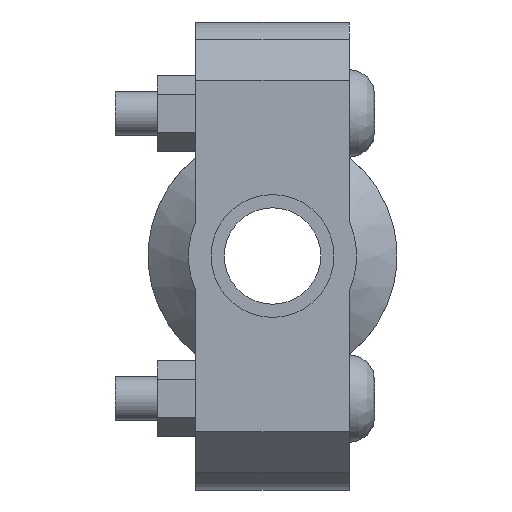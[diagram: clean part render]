
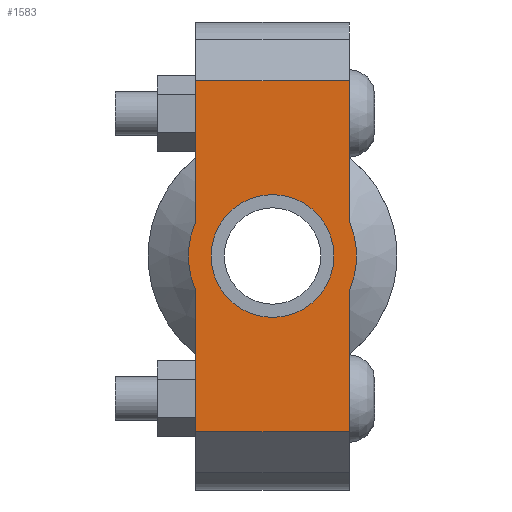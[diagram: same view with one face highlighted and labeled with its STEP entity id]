
A CAD part, left-side view. The second image highlights one B-rep face of the part: STEP entity #1583.
In plain terms, the highlighted planar face has unit normal (-1, 0, 0) as drawn and (0, 0, 1) by its records, which use the part's own axes.
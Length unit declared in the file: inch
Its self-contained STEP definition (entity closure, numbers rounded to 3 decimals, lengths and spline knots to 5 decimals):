
#194=LINE('',#2721,#289);
#209=LINE('',#2780,#304);
#217=LINE('',#2810,#312);
#219=LINE('',#2813,#314);
#220=LINE('',#2818,#315);
#221=LINE('',#2819,#316);
#289=VECTOR('',#2191,0.3937);
#304=VECTOR('',#2226,0.3937);
#312=VECTOR('',#2246,0.3937);
#314=VECTOR('',#2250,0.3937);
#315=VECTOR('',#2255,0.3937);
#316=VECTOR('',#2256,0.3937);
#376=FACE_BOUND('',#535,.T.);
#436=FACE_OUTER_BOUND('',#534,.T.);
#534=EDGE_LOOP('',(#1278,#1279,#1280,#1281,#1282,#1283,#1284,#1285));
#535=EDGE_LOOP('',(#1286));
#640=CIRCLE('',#1846,0.719);
#641=CIRCLE('',#1847,0.719);
#642=CIRCLE('',#1848,0.525);
#749=VERTEX_POINT('',#2718);
#750=VERTEX_POINT('',#2720);
#771=VERTEX_POINT('',#2775);
#772=VERTEX_POINT('',#2779);
#781=VERTEX_POINT('',#2805);
#782=VERTEX_POINT('',#2809);
#783=VERTEX_POINT('',#2815);
#784=VERTEX_POINT('',#2817);
#785=VERTEX_POINT('',#2821);
#919=EDGE_CURVE('',#750,#749,#194,.T.);
#944=EDGE_CURVE('',#772,#771,#209,.T.);
#957=EDGE_CURVE('',#782,#781,#217,.T.);
#959=EDGE_CURVE('',#782,#749,#219,.T.);
#960=EDGE_CURVE('',#781,#783,#640,.T.);
#961=EDGE_CURVE('',#783,#784,#220,.T.);
#962=EDGE_CURVE('',#772,#784,#221,.T.);
#963=EDGE_CURVE('',#771,#750,#641,.T.);
#964=EDGE_CURVE('',#785,#785,#642,.T.);
#1278=ORIENTED_EDGE('',*,*,#959,.F.);
#1279=ORIENTED_EDGE('',*,*,#957,.T.);
#1280=ORIENTED_EDGE('',*,*,#960,.T.);
#1281=ORIENTED_EDGE('',*,*,#961,.T.);
#1282=ORIENTED_EDGE('',*,*,#962,.F.);
#1283=ORIENTED_EDGE('',*,*,#944,.T.);
#1284=ORIENTED_EDGE('',*,*,#963,.T.);
#1285=ORIENTED_EDGE('',*,*,#919,.T.);
#1286=ORIENTED_EDGE('',*,*,#964,.T.);
#1435=PLANE('',#1845);
#1583=ADVANCED_FACE('',(#436,#376),#1435,.T.);
#1845=AXIS2_PLACEMENT_3D('',#2814,#2251,#2252);
#1846=AXIS2_PLACEMENT_3D('',#2816,#2253,#2254);
#1847=AXIS2_PLACEMENT_3D('',#2820,#2257,#2258);
#1848=AXIS2_PLACEMENT_3D('',#2822,#2259,#2260);
#2191=DIRECTION('',(1.,0.,0.));
#2226=DIRECTION('',(1.,0.,0.));
#2246=DIRECTION('',(-1.,0.,0.));
#2250=DIRECTION('',(0.,-1.,0.));
#2251=DIRECTION('center_axis',(0.,0.,1.));
#2252=DIRECTION('ref_axis',(-1.,0.,0.));
#2253=DIRECTION('center_axis',(0.,0.,1.));
#2254=DIRECTION('ref_axis',(1.,0.,0.));
#2255=DIRECTION('',(-1.,0.,0.));
#2256=DIRECTION('',(0.,1.,0.));
#2257=DIRECTION('center_axis',(0.,0.,1.));
#2258=DIRECTION('ref_axis',(1.,0.,0.));
#2259=DIRECTION('center_axis',(0.,0.,-1.));
#2260=DIRECTION('ref_axis',(1.,0.,0.));
#2718=CARTESIAN_POINT('',(1.5,-0.656,0.875));
#2720=CARTESIAN_POINT('',(0.29432,-0.656,0.875));
#2721=CARTESIAN_POINT('',(-2.,-0.656,0.875));
#2775=CARTESIAN_POINT('',(-0.29432,-0.656,0.875));
#2779=CARTESIAN_POINT('',(-1.5,-0.656,0.875));
#2780=CARTESIAN_POINT('',(-2.,-0.656,0.875));
#2805=CARTESIAN_POINT('',(0.29432,0.656,0.875));
#2809=CARTESIAN_POINT('',(1.5,0.656,0.875));
#2810=CARTESIAN_POINT('',(2.,0.656,0.875));
#2813=CARTESIAN_POINT('',(1.5,-0.328,0.875));
#2814=CARTESIAN_POINT('Origin',(0.,0.,
0.875));
#2815=CARTESIAN_POINT('',(-0.29432,0.656,0.875));
#2816=CARTESIAN_POINT('Origin',(0.,0.,0.875));
#2817=CARTESIAN_POINT('',(-1.5,0.656,0.875));
#2818=CARTESIAN_POINT('',(2.,0.656,0.875));
#2819=CARTESIAN_POINT('',(-1.5,0.328,0.875));
#2820=CARTESIAN_POINT('Origin',(0.,0.,0.875));
#2821=CARTESIAN_POINT('',(-0.525,0.,0.875));
#2822=CARTESIAN_POINT('Origin',(0.,0.,0.875));
